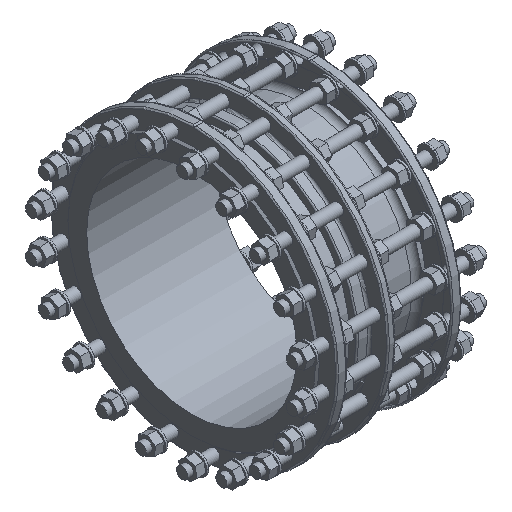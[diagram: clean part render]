
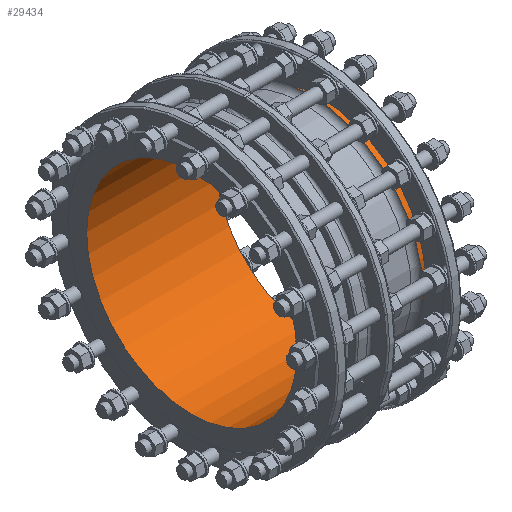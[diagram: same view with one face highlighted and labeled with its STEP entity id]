
A CAD part, isometric view. The second image highlights one B-rep face of the part: STEP entity #29434.
In plain terms, the highlighted cylindrical face has radius 225 mm (diameter 450 mm), a full revolution.
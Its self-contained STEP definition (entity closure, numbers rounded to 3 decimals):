
#1825 = CIRCLE ( 'NONE', #21083, 225. ) ;
#2115 = EDGE_LOOP ( 'NONE', ( #2469 ) ) ;
#2469 = ORIENTED_EDGE ( 'NONE', *, *, #30768, .F. ) ;
#4554 = CARTESIAN_POINT ( 'NONE',  ( 209., 0., 0. ) ) ;
#6876 = FACE_OUTER_BOUND ( 'NONE', #2115, .T. ) ;
#9321 = CARTESIAN_POINT ( 'NONE',  ( 209., 0., 225. ) ) ;
#10894 = CARTESIAN_POINT ( 'NONE',  ( -66., 0., -225. ) ) ;
#11714 = DIRECTION ( 'NONE',  ( 0., 0., 1. ) ) ;
#12239 = VERTEX_POINT ( 'NONE', #9321 ) ;
#13851 = DIRECTION ( 'NONE',  ( 1., 0., 0. ) ) ;
#14200 = DIRECTION ( 'NONE',  ( 0., 0., -1. ) ) ;
#15050 = DIRECTION ( 'NONE',  ( -1., 0., 0. ) ) ;
#16171 = CIRCLE ( 'NONE', #24417, 225. ) ;
#16229 = ORIENTED_EDGE ( 'NONE', *, *, #33235, .F. ) ;
#20448 = AXIS2_PLACEMENT_3D ( 'NONE', #31318, #24972, #11714 ) ;
#20789 = FACE_OUTER_BOUND ( 'NONE', #25829, .T. ) ;
#21083 = AXIS2_PLACEMENT_3D ( 'NONE', #27288, #13851, #14200 ) ;
#21404 = VERTEX_POINT ( 'NONE', #10894 ) ;
#24417 = AXIS2_PLACEMENT_3D ( 'NONE', #4554, #15050, #25563 ) ;
#24808 = CYLINDRICAL_SURFACE ( 'NONE', #20448, 225. ) ;
#24972 = DIRECTION ( 'NONE',  ( -1., 0., 0. ) ) ;
#25563 = DIRECTION ( 'NONE',  ( 0., 0., 1. ) ) ;
#25829 = EDGE_LOOP ( 'NONE', ( #16229 ) ) ;
#27288 = CARTESIAN_POINT ( 'NONE',  ( -66., 0., 0. ) ) ;
#29434 = ADVANCED_FACE ( 'NONE', ( #20789, #6876 ), #24808, .F. ) ;
#30768 = EDGE_CURVE ( 'NONE', #21404, #21404, #1825, .T. ) ;
#31318 = CARTESIAN_POINT ( 'NONE',  ( 0., 0., 0. ) ) ;
#33235 = EDGE_CURVE ( 'NONE', #12239, #12239, #16171, .T. ) ;
